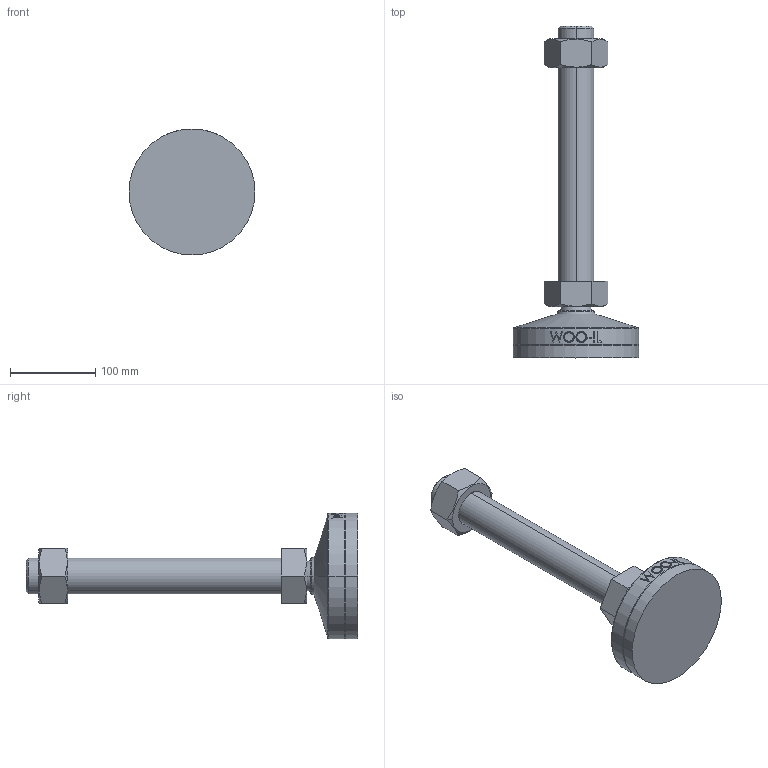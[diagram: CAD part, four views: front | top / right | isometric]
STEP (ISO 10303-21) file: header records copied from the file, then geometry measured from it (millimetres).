
FILE_DESCRIPTION (( 'STEP AP214' ), '1' );
FILE_NAME ('MFNR148-M42-300.step', '2021-02-22T09:05:49', ( '' ), ( '' ), 'SwSTEP 2.0', 'SolidWorks 2019', '' );
FILE_SCHEMA (( 'AUTOMOTIVE_DESIGN' ));
Length unit declared in the file: millimetre
Products named in the file (2): MFNR148-M42-300
Bounding box: 148 x 390 x 148 mm (x, y, z)
Volume: 1344799.3 mm3; surface area: 120317.5 mm2
Topology: 2 solids, 2 shells, 103 faces, 239 edges, 152 vertices
Faces by surface type: plane 47, cone 18, cylinder 16, bspline 16, torus 4, sphere 2
Entity records: 4657 total; most frequent: CARTESIAN_POINT 2378, ORIENTED_EDGE 478, DIRECTION 423, EDGE_CURVE 239, AXIS2_PLACEMENT_3D 161, VERTEX_POINT 152, EDGE_LOOP 117, ADVANCED_FACE 103
